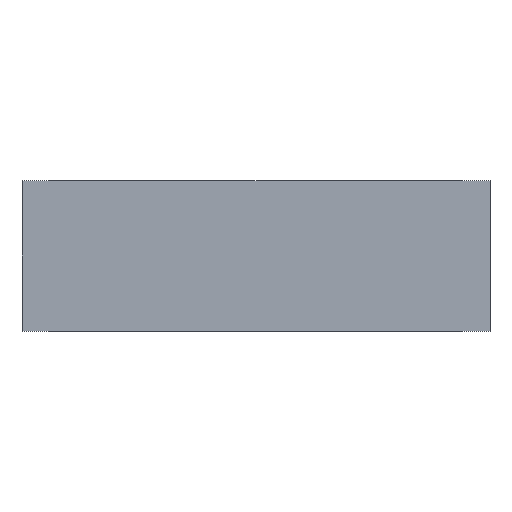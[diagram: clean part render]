
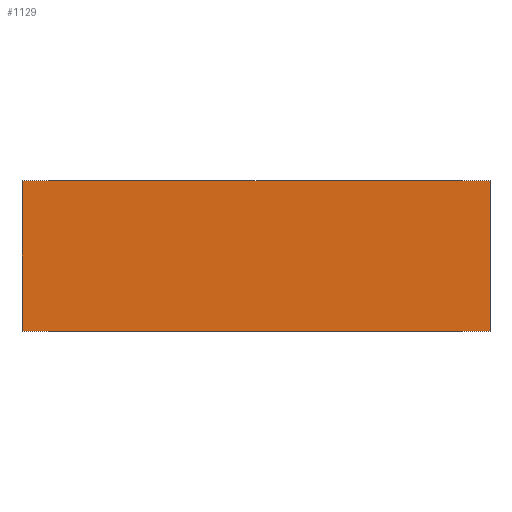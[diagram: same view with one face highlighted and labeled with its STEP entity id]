
A CAD part, front view. The second image highlights one B-rep face of the part: STEP entity #1129.
In plain terms, the highlighted planar face has unit normal (0, -1, 0).
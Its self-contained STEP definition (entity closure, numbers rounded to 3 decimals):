
#1 = VERTEX_POINT ( 'NONE', #1184 ) ;
#2 = VERTEX_POINT ( 'NONE', #404 ) ;
#5 = VERTEX_POINT ( 'NONE', #1192 ) ;
#9 = CARTESIAN_POINT ( 'NONE',  ( -101., 0., 65. ) ) ;
#10 = DIRECTION ( 'NONE',  ( 0., 0., -1. ) ) ;
#12 = DIRECTION ( 'NONE',  ( 0., 0., -1. ) ) ;
#43 = VERTEX_POINT ( 'NONE', #1201 ) ;
#89 = CARTESIAN_POINT ( 'NONE',  ( -101., 0., 65. ) ) ;
#90 = DIRECTION ( 'NONE',  ( 1., 0., 0. ) ) ;
#133 = CARTESIAN_POINT ( 'NONE',  ( -101., 0., 0. ) ) ;
#134 = DIRECTION ( 'NONE',  ( 1., 0., 0. ) ) ;
#245 = PLANE ( 'NONE',  #1087 ) ;
#248 = CARTESIAN_POINT ( 'NONE',  ( -101., 0., 65. ) ) ;
#254 = DIRECTION ( 'NONE',  ( 0., 1., 0. ) ) ;
#255 = DIRECTION ( 'NONE',  ( -1., 0., 0. ) ) ;
#404 = CARTESIAN_POINT ( 'NONE',  ( -101., 0., 65. ) ) ;
#510 = LINE ( 'NONE', #809, #515 ) ;
#512 = LINE ( 'NONE', #9, #517 ) ;
#515 = VECTOR ( 'NONE', #10, 1000. ) ;
#517 = VECTOR ( 'NONE', #12, 1000. ) ;
#627 = LINE ( 'NONE', #89, #628 ) ;
#628 = VECTOR ( 'NONE', #90, 1000. ) ;
#671 = LINE ( 'NONE', #133, #672 ) ;
#672 = VECTOR ( 'NONE', #134, 1000. ) ;
#737 = FACE_OUTER_BOUND ( 'NONE', #995, .T. ) ;
#809 = CARTESIAN_POINT ( 'NONE',  ( 101., 0., 65. ) ) ;
#817 = EDGE_CURVE ( 'NONE', #5, #1, #510, .T. ) ;
#818 = EDGE_CURVE ( 'NONE', #2, #43, #512, .T. ) ;
#873 = EDGE_CURVE ( 'NONE', #2, #5, #627, .T. ) ;
#895 = EDGE_CURVE ( 'NONE', #43, #1, #671, .T. ) ;
#980 = ORIENTED_EDGE ( 'NONE', *, *, #895, .T. ) ;
#986 = ORIENTED_EDGE ( 'NONE', *, *, #818, .T. ) ;
#995 = EDGE_LOOP ( 'NONE', ( #980, #999, #1009, #986 ) ) ;
#999 = ORIENTED_EDGE ( 'NONE', *, *, #817, .F. ) ;
#1009 = ORIENTED_EDGE ( 'NONE', *, *, #873, .F. ) ;
#1087 = AXIS2_PLACEMENT_3D ( 'NONE', #248, #254, #255 ) ;
#1129 = ADVANCED_FACE ( 'NONE', ( #737 ), #245, .F. ) ;
#1184 = CARTESIAN_POINT ( 'NONE',  ( 101., 0., 0. ) ) ;
#1192 = CARTESIAN_POINT ( 'NONE',  ( 101., 0., 65. ) ) ;
#1201 = CARTESIAN_POINT ( 'NONE',  ( -101., 0., 0. ) ) ;
